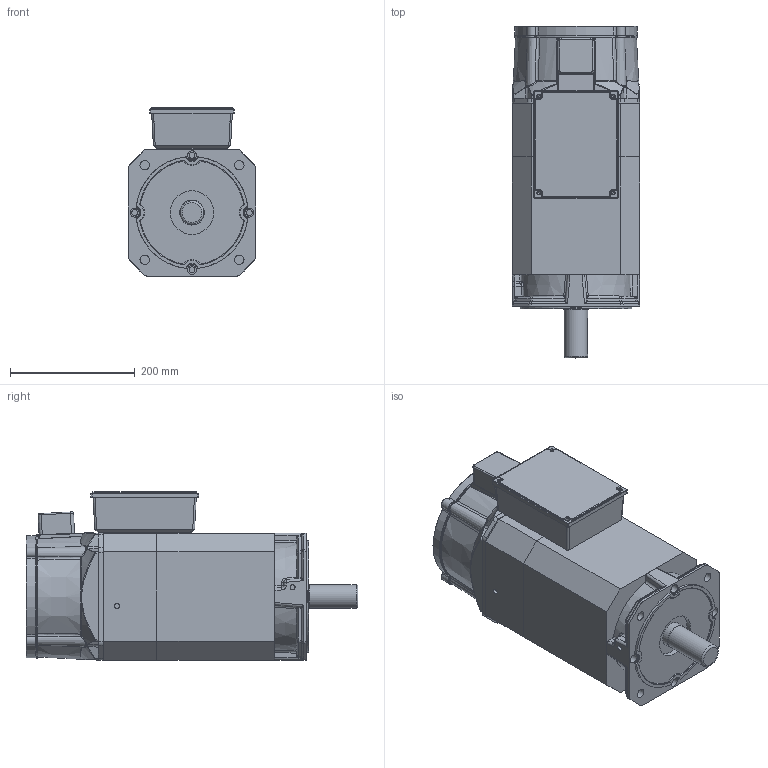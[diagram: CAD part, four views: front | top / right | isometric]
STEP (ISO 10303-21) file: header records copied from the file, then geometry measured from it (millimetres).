
FILE_DESCRIPTION(/* description */ (''),/* implementation_level */ '2;1');
FILE_NAME(/* name */ '204ZJY-4-5.5-15.stp',/* time_stamp */ '2024-01-15T15:22:49+08:00',/* author */ (''),/* organization */ (''),/* preprocessor_version */ 'ST-DEVELOPER v18.1',/* originating_system */ 'SIEMENS PLM Software NX 2000',/* authorisation */ '');
FILE_SCHEMA (('AUTOMOTIVE_DESIGN { 1 0 10303 214 3 1 1 1 }'));
Products named in the file (1): 204ZJY-4-2.2-15电机外形图
Bounding box: 204 x 533 x 270 mm (x, y, z)
Volume: 12532897.8 mm3; surface area: 1028711.4 mm2
Topology: 9 solids, 9 shells, 1868 faces, 4653 edges, 2763 vertices
Faces by surface type: cylinder 743, torus 447, plane 355, bspline 248, cone 63, sphere 12
Full cylindrical faces by diameter (mm): 4 x10, 5 x10, 6 x10, 6.5 x4, 7 x8, 7.5 x4, 8 x4, 9.5 x8, 11 x8, 13.5 x2, 14.5 x4, 15 x5, 28 x1, 38 x1, 39.8 x1, 40 x1, 70 x1, 187 x1
Entity records: 61916 total; most frequent: CARTESIAN_POINT 21933, ORIENTED_EDGE 8866, DIRECTION 7419, EDGE_CURVE 4433, AXIS2_PLACEMENT_3D 3126, VERTEX_POINT 2704, EDGE_LOOP 2121, ADVANCED_FACE 1868
